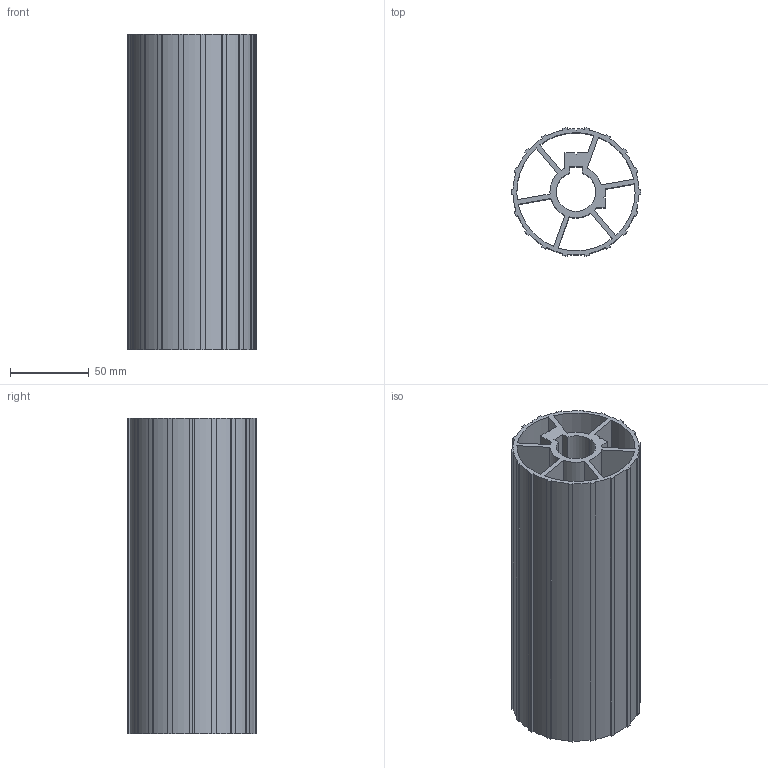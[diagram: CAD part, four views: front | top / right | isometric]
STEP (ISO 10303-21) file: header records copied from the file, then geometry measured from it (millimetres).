
FILE_DESCRIPTION (( 'STEP AP203' ), '1' );
FILE_NAME ('013980 REF RODILLO 80.STEP', '2015-12-01T11:51:37', ( '' ), ( '' ), 'SwSTEP 2.0', 'SolidWorks 2015', '' );
FILE_SCHEMA (( 'CONFIG_CONTROL_DESIGN' ));
Length unit declared in the file: millimetre
Products named in the file (1): 013980 REF RODILLO 80
Bounding box: 82 x 81.22 x 200 mm (x, y, z)
Volume: 303755.2 mm3; surface area: 190829.1 mm2
Topology: 1 solids, 1 shells, 123 faces, 363 edges, 242 vertices
Faces by surface type: plane 67, cylinder 56
Entity records: 4234 total; most frequent: CARTESIAN_POINT 729, ORIENTED_EDGE 726, DIRECTION 723, EDGE_CURVE 363, VECTOR 251, LINE 251, VERTEX_POINT 242, AXIS2_PLACEMENT_3D 236
